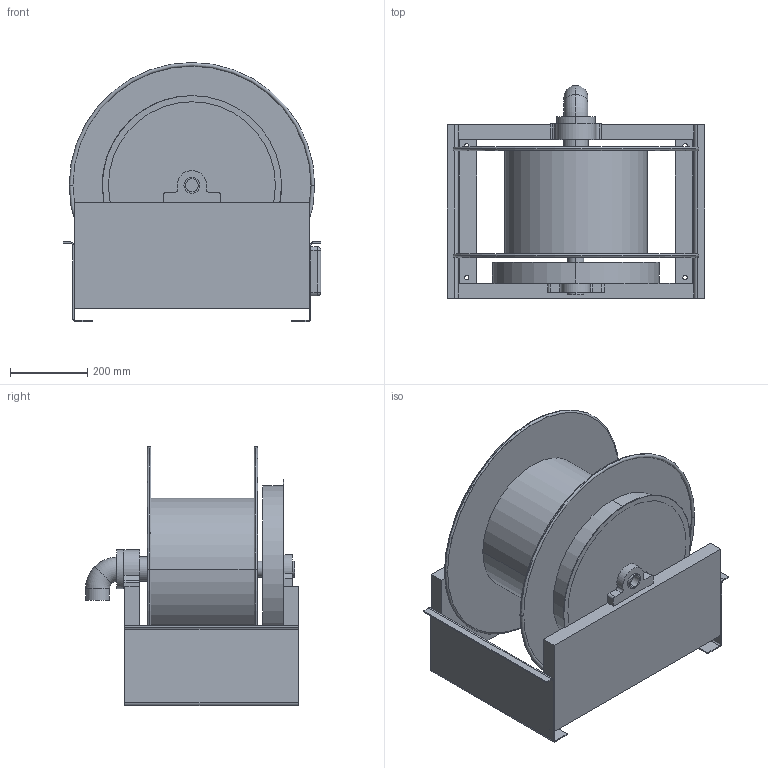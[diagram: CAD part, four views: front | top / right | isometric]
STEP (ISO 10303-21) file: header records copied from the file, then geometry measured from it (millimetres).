
FILE_DESCRIPTION((''),'2;1');
FILE_NAME('FF9500_OLPBW_ASM','2023-04-28T10:40:53',('Adam.Simon'),(''),'CREO PARAMETRIC BY PTC INC, 2020053','CREO PARAMETRIC BY PTC INC, 2020053','');
FILE_SCHEMA(('CONFIG_CONTROL_DESIGN'));
Length unit declared in the file: millimetre
Products named in the file (5): 3; 4; 1; PRT0001; FF9500_OLPBW_ASM
Assembly tree (4 placements, depth 2):
  FF9500_OLPBW_ASM
    3
    4
    1
    PRT0001
Bounding box: 666.39 x 550.33 x 669.92 mm (x, y, z)
Volume: 25875531.2 mm3; surface area: 3625366 mm2
Topology: 4 solids, 6 shells, 174 faces, 447 edges, 297 vertices
Faces by surface type: plane 78, cylinder 64, torus 28, sphere 4
Entity records: 5572 total; most frequent: DIRECTION 1042, CARTESIAN_POINT 974, ORIENTED_EDGE 886, EDGE_CURVE 443, AXIS2_PLACEMENT_3D 420, VERTEX_POINT 297, CIRCLE 237, VECTOR 202
